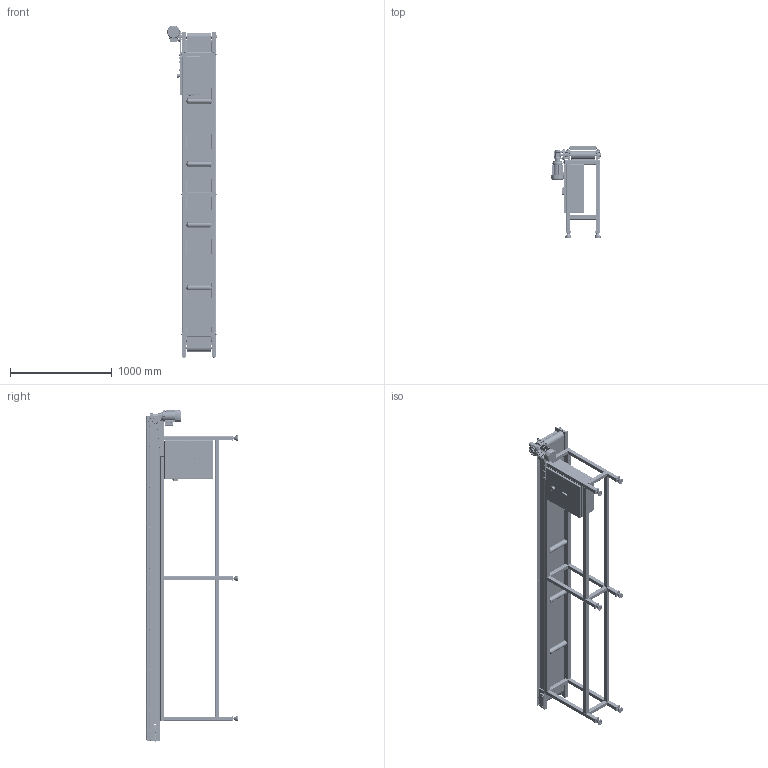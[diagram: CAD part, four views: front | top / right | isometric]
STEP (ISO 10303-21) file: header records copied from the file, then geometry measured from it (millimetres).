
FILE_DESCRIPTION(/* description */ (''),/* implementation_level */ '2;1');
FILE_NAME(/* name */ 'BeltConveyor_W240_L3000.stp',/* time_stamp */ '2024-12-13T23:18:32+08:00',/* author */ (''),/* organization */ (''),/* preprocessor_version */ 'ST-DEVELOPER v16.7',/* originating_system */ 'SIEMENS PLM Software NX 12.0',/* authorisation */ '');
FILE_SCHEMA (('AUTOMOTIVE_DESIGN { 1 0 10303 214 3 1 1 1 }'));
Products named in the file (38): radial ball bearing_68_din_DIN 625 - 6204 - 10,DE,NC,10_68; 1105-1008_Valor predeterminado_Como usinado_; 1105-1009; painel eletrico; 1105-1005_Valor predeterminado_Como usinado_; 1105-1013; 1105-1016; 1105-1004_Valor predeterminado_Como usinado_; 1105-1012; 1105-1015; MANCAL UCF_204; 1105-1002_Valor predeterminado_Como usinado_; 1105-1010; 1105-1003_Valor predeterminado_Como usinado_; 1105-1001_Valor predeterminado_Como usinado_; socket head cap screw_din_DIN 912 M8 x 20 --- 20N; 1105-1007_Valor predeterminado_Como usinado_; 1105-1014; hex nut gradec_din_Hexagon Nut ISO 4034 - M8 - N; Esteira de lona; 1105-1006_Valor predeterminado_Como usinado_; MOTORRREDUTOR; ROLETE; hex screw gradeab_din_ISO 4017 - M8 x 35-N; plain washer grade a_din_Washer DIN 125 - A 10.5; socket countersunk head screw_din_DIN 7991 - M5 x 10 --- 10C; hex screw gradeab_din_ISO 4017 - M10 x 30-N; plain washer grade a_din_Washer DIN 125 - A 6.4; hex nut_ai_HNUT 0.3750-16-D-C; curved spring lock washer_din_Spring washer DIN 128 - A8; hex nut gradec_din_Hexagon Nut ISO 4034 - M6 - C; 1105-1011; SAPATA ROSCADA; hex screw gradeab_din_ISO 4017 - M6 x 16-N; curved spring lock washer_din_Spring washer DIN 128 - A10; plain washer grade a_din_Washer DIN 125 - A 8.4; Montagem4; BeltConveyor_W240_L3000_step
Assembly tree (247 placements, depth 3):
  BeltConveyor_W240_L3000_step
    plain washer grade a_din_Washer DIN 125 - A 8.4  x14
    curved spring lock washer_din_Spring washer DIN 128 - A10  x11
    hex screw gradeab_din_ISO 4017 - M6 x 16-N  x36
    SAPATA ROSCADA  x6
    1105-1011  x2
    hex nut gradec_din_Hexagon Nut ISO 4034 - M6 - C  x20
    curved spring lock washer_din_Spring washer DIN 128 - A8  x12
    hex nut_ai_HNUT 0.3750-16-D-C  x6
    plain washer grade a_din_Washer DIN 125 - A 6.4  x56
    hex screw gradeab_din_ISO 4017 - M10 x 30-N  x11
    socket countersunk head screw_din_DIN 7991 - M5 x 10 --- 10C  x16
    plain washer grade a_din_Washer DIN 125 - A 10.5  x11
    hex screw gradeab_din_ISO 4017 - M8 x 35-N  x12
    ROLETE  x4
    MOTORRREDUTOR
    1105-1006_Valor predeterminado_Como usinado_
    Esteira de lona
    hex nut gradec_din_Hexagon Nut ISO 4034 - M8 - N  x4
    1105-1014
    1105-1007_Valor predeterminado_Como usinado_
    socket head cap screw_din_DIN 912 M8 x 20 --- 20N  x2
    Montagem4
      1105-1009
      1105-1008_Valor predeterminado_Como usinado_
      radial ball bearing_68_din_DIN 625 - 6204 - 10,DE,NC,10_68  x2
    1105-1001_Valor predeterminado_Como usinado_
    1105-1003_Valor predeterminado_Como usinado_
    1105-1010
    1105-1002_Valor predeterminado_Como usinado_
    MANCAL UCF_204  x2
    1105-1015  x2
    1105-1012
    1105-1004_Valor predeterminado_Como usinado_
    1105-1016
    1105-1013
    1105-1005_Valor predeterminado_Como usinado_
    painel eletrico
Bounding box: 485.8 x 898.36 x 3268.4 mm (x, y, z)
Volume: 60048116.1 mm3; surface area: 15087181.3 mm2
Topology: 312 solids, 338 shells, 8119 faces, 19161 edges, 11753 vertices
Faces by surface type: plane 3317, cylinder 2246, cone 1494, torus 468, extrusion 246, bspline 243, sphere 105
Full cylindrical faces by diameter (mm): 8.5 x2, 18 x3, 20 x5, 22.225 x2, 66.5 x2, 75 x1
Entity records: 150763 total; most frequent: CARTESIAN_POINT 45775, ORIENTED_EDGE 21398, DIRECTION 20023, EDGE_CURVE 10699, AXIS2_PLACEMENT_3D 7460, VERTEX_POINT 6817, VECTOR 5103, LINE 4857
